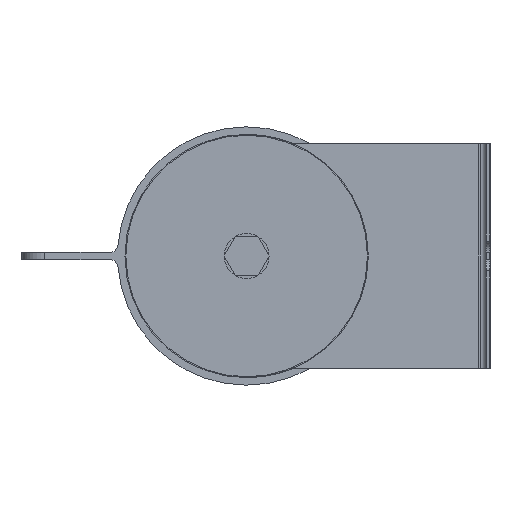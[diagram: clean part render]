
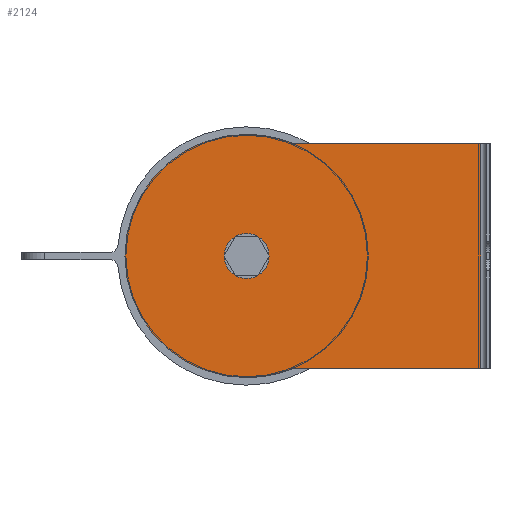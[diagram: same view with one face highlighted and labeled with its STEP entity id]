
A CAD part, left-side view. The second image highlights one B-rep face of the part: STEP entity #2124.
In plain terms, the highlighted planar face has unit normal (-1, 0, 0).
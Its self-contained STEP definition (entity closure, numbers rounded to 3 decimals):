
#51 = DIRECTION ( 'NONE',  ( -1., 0., 0. ) ) ;
#63 = CARTESIAN_POINT ( 'NONE',  ( -301.5, 0., 0. ) ) ;
#111 = ORIENTED_EDGE ( 'NONE', *, *, #1383, .T. ) ;
#162 = CARTESIAN_POINT ( 'NONE',  ( -301.5, -62.5, 30. ) ) ;
#350 = CARTESIAN_POINT ( 'NONE',  ( -301.5, 0., 0. ) ) ;
#374 = CIRCLE ( 'NONE', #1781, 32.5 ) ;
#392 = DIRECTION ( 'NONE',  ( 0., -1., 0. ) ) ;
#456 = EDGE_LOOP ( 'NONE', ( #814, #1957 ) ) ;
#524 = PLANE ( 'NONE',  #2970 ) ;
#530 = CARTESIAN_POINT ( 'NONE',  ( -301.5, 0., -6. ) ) ;
#655 = VERTEX_POINT ( 'NONE', #1732 ) ;
#663 = VERTEX_POINT ( 'NONE', #162 ) ;
#733 = CARTESIAN_POINT ( 'NONE',  ( -301.5, 0., 6. ) ) ;
#737 = ORIENTED_EDGE ( 'NONE', *, *, #928, .T. ) ;
#774 = DIRECTION ( 'NONE',  ( -1., 0., 0. ) ) ;
#814 = ORIENTED_EDGE ( 'NONE', *, *, #1930, .F. ) ;
#851 = DIRECTION ( 'NONE',  ( -1., 0., 0. ) ) ;
#899 = DIRECTION ( 'NONE',  ( 0., 0., 1. ) ) ;
#928 = EDGE_CURVE ( 'NONE', #655, #2580, #2818, .T. ) ;
#935 = DIRECTION ( 'NONE',  ( 0., 0., 1. ) ) ;
#967 = AXIS2_PLACEMENT_3D ( 'NONE', #350, #851, #1775 ) ;
#1149 = CARTESIAN_POINT ( 'NONE',  ( -301.5, 0., 30. ) ) ;
#1200 = VECTOR ( 'NONE', #2108, 1000. ) ;
#1227 = DIRECTION ( 'NONE',  ( 0., 0., 1. ) ) ;
#1242 = CIRCLE ( 'NONE', #967, 6. ) ;
#1260 = ORIENTED_EDGE ( 'NONE', *, *, #2731, .T. ) ;
#1347 = VECTOR ( 'NONE', #1227, 1000. ) ;
#1354 = CARTESIAN_POINT ( 'NONE',  ( -301.5, 0., 0. ) ) ;
#1380 = DIRECTION ( 'NONE',  ( -1., 0., 0. ) ) ;
#1383 = EDGE_CURVE ( 'NONE', #1812, #1929, #374, .T. ) ;
#1395 = CARTESIAN_POINT ( 'NONE',  ( -301.5, 0., 0. ) ) ;
#1400 = ORIENTED_EDGE ( 'NONE', *, *, #1640, .T. ) ;
#1498 = AXIS2_PLACEMENT_3D ( 'NONE', #2185, #2668, #2414 ) ;
#1509 = CARTESIAN_POINT ( 'NONE',  ( -301.5, -12.5, 30. ) ) ;
#1525 = LINE ( 'NONE', #1149, #1200 ) ;
#1580 = ORIENTED_EDGE ( 'NONE', *, *, #2494, .T. ) ;
#1640 = EDGE_CURVE ( 'NONE', #2580, #663, #2828, .T. ) ;
#1649 = EDGE_CURVE ( 'NONE', #2905, #2280, #1987, .T. ) ;
#1732 = CARTESIAN_POINT ( 'NONE',  ( -301.5, -12.5, -30. ) ) ;
#1775 = DIRECTION ( 'NONE',  ( 0., 0., 1. ) ) ;
#1781 = AXIS2_PLACEMENT_3D ( 'NONE', #1395, #1380, #935 ) ;
#1801 = CIRCLE ( 'NONE', #2628, 32.5 ) ;
#1812 = VERTEX_POINT ( 'NONE', #1509 ) ;
#1834 = VERTEX_POINT ( 'NONE', #1978 ) ;
#1855 = DIRECTION ( 'NONE',  ( -1., 0., 0. ) ) ;
#1929 = VERTEX_POINT ( 'NONE', #2255 ) ;
#1930 = EDGE_CURVE ( 'NONE', #2280, #2905, #1242, .T. ) ;
#1936 = CARTESIAN_POINT ( 'NONE',  ( -301.5, -62.5, 30. ) ) ;
#1957 = ORIENTED_EDGE ( 'NONE', *, *, #1649, .F. ) ;
#1978 = CARTESIAN_POINT ( 'NONE',  ( -301.5, 0., -32.5 ) ) ;
#1987 = CIRCLE ( 'NONE', #1498, 6. ) ;
#2023 = EDGE_LOOP ( 'NONE', ( #737, #1400, #1260, #111, #2990, #1580 ) ) ;
#2108 = DIRECTION ( 'NONE',  ( 0., 1., 0. ) ) ;
#2124 = ADVANCED_FACE ( 'NONE', ( #2753, #2966 ), #524, .T. ) ;
#2152 = DIRECTION ( 'NONE',  ( 0., 0., 1. ) ) ;
#2185 = CARTESIAN_POINT ( 'NONE',  ( -301.5, 0., 0. ) ) ;
#2189 = CARTESIAN_POINT ( 'NONE',  ( -301.5, 0., 0. ) ) ;
#2209 = VECTOR ( 'NONE', #392, 1000. ) ;
#2248 = EDGE_CURVE ( 'NONE', #1929, #1834, #2713, .T. ) ;
#2255 = CARTESIAN_POINT ( 'NONE',  ( -301.5, 0., 32.5 ) ) ;
#2280 = VERTEX_POINT ( 'NONE', #530 ) ;
#2414 = DIRECTION ( 'NONE',  ( 0., 0., 1. ) ) ;
#2494 = EDGE_CURVE ( 'NONE', #1834, #655, #1801, .T. ) ;
#2580 = VERTEX_POINT ( 'NONE', #2901 ) ;
#2626 = DIRECTION ( 'NONE',  ( 0., 0., 1. ) ) ;
#2628 = AXIS2_PLACEMENT_3D ( 'NONE', #1354, #1855, #899 ) ;
#2668 = DIRECTION ( 'NONE',  ( -1., 0., 0. ) ) ;
#2713 = CIRCLE ( 'NONE', #2741, 32.5 ) ;
#2731 = EDGE_CURVE ( 'NONE', #663, #1812, #1525, .T. ) ;
#2741 = AXIS2_PLACEMENT_3D ( 'NONE', #63, #51, #2152 ) ;
#2753 = FACE_BOUND ( 'NONE', #456, .T. ) ;
#2818 = LINE ( 'NONE', #2957, #2209 ) ;
#2828 = LINE ( 'NONE', #1936, #1347 ) ;
#2901 = CARTESIAN_POINT ( 'NONE',  ( -301.5, -62.5, -30. ) ) ;
#2905 = VERTEX_POINT ( 'NONE', #733 ) ;
#2957 = CARTESIAN_POINT ( 'NONE',  ( -301.5, 0., -30. ) ) ;
#2966 = FACE_OUTER_BOUND ( 'NONE', #2023, .T. ) ;
#2970 = AXIS2_PLACEMENT_3D ( 'NONE', #2189, #774, #2626 ) ;
#2990 = ORIENTED_EDGE ( 'NONE', *, *, #2248, .T. ) ;
